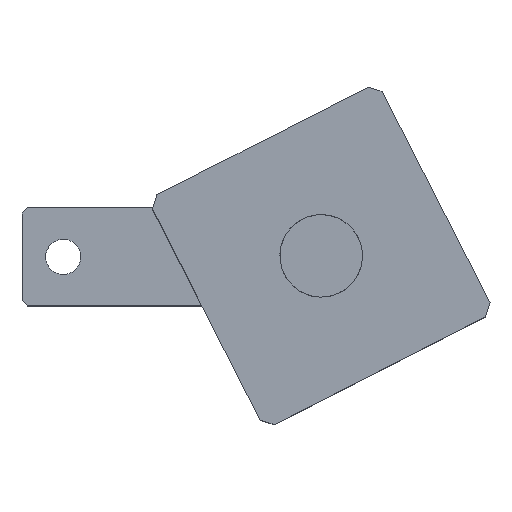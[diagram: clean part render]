
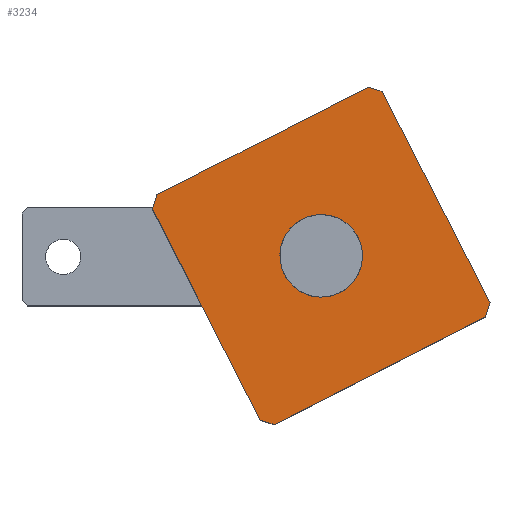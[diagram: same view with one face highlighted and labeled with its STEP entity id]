
A CAD part, top view. The second image highlights one B-rep face of the part: STEP entity #3234.
In plain terms, the highlighted planar face has unit normal (0, 0, 1) as drawn and (0, 0, -1) by its records, which use the part's own axes.
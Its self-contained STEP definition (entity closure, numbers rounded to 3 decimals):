
#1 = EDGE_CURVE ( 'NONE', #2928, #2290, #3054, .T. ) ;
#2 = ORIENTED_EDGE ( 'NONE', *, *, #3249, .T. ) ;
#3 = ORIENTED_EDGE ( 'NONE', *, *, #2291, .F. ) ;
#4 = ORIENTED_EDGE ( 'NONE', *, *, #1, .T. ) ;
#5 = ORIENTED_EDGE ( 'NONE', *, *, #2920, .F. ) ;
#9 = EDGE_CURVE ( 'NONE', #2554, #2917, #3111, .T. ) ;
#10 = ORIENTED_EDGE ( 'NONE', *, *, #9, .T. ) ;
#11 = ORIENTED_EDGE ( 'NONE', *, *, #2553, .F. ) ;
#12 = EDGE_CURVE ( 'NONE', #2280, #2555, #3103, .T. ) ;
#13 = ORIENTED_EDGE ( 'NONE', *, *, #12, .T. ) ;
#102 = CARTESIAN_POINT ( 'NONE',  ( 50., 2., 0. ) ) ;
#111 = DIRECTION ( 'NONE',  ( 0., 1., 0. ) ) ;
#112 = VECTOR ( 'NONE', #111, 1000. ) ;
#113 = CARTESIAN_POINT ( 'NONE',  ( 50., 0., 0. ) ) ;
#114 = LINE ( 'NONE', #113, #112 ) ;
#115 = CARTESIAN_POINT ( 'NONE',  ( 50., 48., 0. ) ) ;
#265 = CARTESIAN_POINT ( 'NONE',  ( 33., 25., 0. ) ) ;
#266 = CARTESIAN_POINT ( 'NONE',  ( 17., 25., 0. ) ) ;
#267 = DIRECTION ( 'NONE',  ( 1., 0., 0. ) ) ;
#268 = DIRECTION ( 'NONE',  ( 0., 0., 1. ) ) ;
#269 = AXIS2_PLACEMENT_3D ( 'NONE', #275, #268, #267 ) ;
#270 = CIRCLE ( 'NONE', #269, 8. ) ;
#275 = CARTESIAN_POINT ( 'NONE',  ( 25., 25., 0. ) ) ;
#599 = CARTESIAN_POINT ( 'NONE',  ( 0., 2., 0. ) ) ;
#600 = CARTESIAN_POINT ( 'NONE',  ( 0., 48., 0. ) ) ;
#601 = DIRECTION ( 'NONE',  ( 0., -1., 0. ) ) ;
#602 = VECTOR ( 'NONE', #601, 1000. ) ;
#603 = CARTESIAN_POINT ( 'NONE',  ( 0., 0., 0. ) ) ;
#604 = LINE ( 'NONE', #603, #602 ) ;
#609 = CARTESIAN_POINT ( 'NONE',  ( 48., 0., 0. ) ) ;
#1237 = DIRECTION ( 'NONE',  ( -1., 0., 0. ) ) ;
#1238 = VECTOR ( 'NONE', #1237, 1000. ) ;
#1239 = CARTESIAN_POINT ( 'NONE',  ( 0., 50., 0. ) ) ;
#1240 = LINE ( 'NONE', #1239, #1238 ) ;
#1252 = CARTESIAN_POINT ( 'NONE',  ( 2., 50., 0. ) ) ;
#1289 = CARTESIAN_POINT ( 'NONE',  ( 48., 50., 0. ) ) ;
#1535 = CARTESIAN_POINT ( 'NONE',  ( 25., 25., 0. ) ) ;
#1584 = DIRECTION ( 'NONE',  ( -1., 0., 0. ) ) ;
#1585 = DIRECTION ( 'NONE',  ( 0., 0., -1. ) ) ;
#1586 = CARTESIAN_POINT ( 'NONE',  ( 0., 50., 0. ) ) ;
#1587 = AXIS2_PLACEMENT_3D ( 'NONE', #1586, #1585, #1584 ) ;
#1588 = PLANE ( 'NONE',  #1587 ) ;
#1589 = FACE_OUTER_BOUND ( 'NONE', #3228, .T. ) ;
#1590 = DIRECTION ( 'NONE',  ( 1., 0., 0. ) ) ;
#1591 = DIRECTION ( 'NONE',  ( 0., 0., 1. ) ) ;
#1592 = AXIS2_PLACEMENT_3D ( 'NONE', #1535, #1591, #1590 ) ;
#1593 = CIRCLE ( 'NONE', #1592, 8. ) ;
#1594 = FACE_BOUND ( 'NONE', #3232, .T. ) ;
#1609 = DIRECTION ( 'NONE',  ( -0.707, -0.707, 0. ) ) ;
#1610 = VECTOR ( 'NONE', #1609, 1000. ) ;
#1611 = CARTESIAN_POINT ( 'NONE',  ( 49., 1., 0. ) ) ;
#1612 = LINE ( 'NONE', #1611, #1610 ) ;
#2280 = VERTEX_POINT ( 'NONE', #3187 ) ;
#2283 = EDGE_CURVE ( 'NONE', #2280, #2550, #3186, .T. ) ;
#2290 = VERTEX_POINT ( 'NONE', #115 ) ;
#2291 = EDGE_CURVE ( 'NONE', #2294, #2290, #114, .T. ) ;
#2294 = VERTEX_POINT ( 'NONE', #102 ) ;
#2391 = EDGE_CURVE ( 'NONE', #2392, #2393, #270, .T. ) ;
#2392 = VERTEX_POINT ( 'NONE', #266 ) ;
#2393 = VERTEX_POINT ( 'NONE', #265 ) ;
#2550 = VERTEX_POINT ( 'NONE', #609 ) ;
#2553 = EDGE_CURVE ( 'NONE', #2554, #2555, #604, .T. ) ;
#2554 = VERTEX_POINT ( 'NONE', #600 ) ;
#2555 = VERTEX_POINT ( 'NONE', #599 ) ;
#2917 = VERTEX_POINT ( 'NONE', #1252 ) ;
#2920 = EDGE_CURVE ( 'NONE', #2928, #2917, #1240, .T. ) ;
#2928 = VERTEX_POINT ( 'NONE', #1289 ) ;
#3051 = DIRECTION ( 'NONE',  ( 0.707, -0.707, 0. ) ) ;
#3052 = VECTOR ( 'NONE', #3051, 1000. ) ;
#3053 = CARTESIAN_POINT ( 'NONE',  ( 24., 74., 0. ) ) ;
#3054 = LINE ( 'NONE', #3053, #3052 ) ;
#3100 = DIRECTION ( 'NONE',  ( -0.707, 0.707, 0. ) ) ;
#3101 = VECTOR ( 'NONE', #3100, 1000. ) ;
#3102 = CARTESIAN_POINT ( 'NONE',  ( -24., 26., 0. ) ) ;
#3103 = LINE ( 'NONE', #3102, #3101 ) ;
#3104 = DIRECTION ( 'NONE',  ( 0.707, 0.707, 0. ) ) ;
#3105 = VECTOR ( 'NONE', #3104, 1000. ) ;
#3106 = CARTESIAN_POINT ( 'NONE',  ( 1., 49., 0. ) ) ;
#3111 = LINE ( 'NONE', #3106, #3105 ) ;
#3183 = DIRECTION ( 'NONE',  ( 1., 0., 0. ) ) ;
#3184 = VECTOR ( 'NONE', #3183, 1000. ) ;
#3185 = CARTESIAN_POINT ( 'NONE',  ( 0., 0., 0. ) ) ;
#3186 = LINE ( 'NONE', #3185, #3184 ) ;
#3187 = CARTESIAN_POINT ( 'NONE',  ( 2., 0., 0. ) ) ;
#3226 = ORIENTED_EDGE ( 'NONE', *, *, #2283, .F. ) ;
#3228 = EDGE_LOOP ( 'NONE', ( #3226, #13, #11, #10, #5, #4, #3, #2 ) ) ;
#3229 = ORIENTED_EDGE ( 'NONE', *, *, #3230, .T. ) ;
#3230 = EDGE_CURVE ( 'NONE', #2393, #2392, #1593, .T. ) ;
#3231 = ORIENTED_EDGE ( 'NONE', *, *, #2391, .T. ) ;
#3232 = EDGE_LOOP ( 'NONE', ( #3229, #3231 ) ) ;
#3234 = ADVANCED_FACE ( 'NONE', ( #1594, #1589 ), #1588, .T. ) ;
#3249 = EDGE_CURVE ( 'NONE', #2294, #2550, #1612, .T. ) ;
